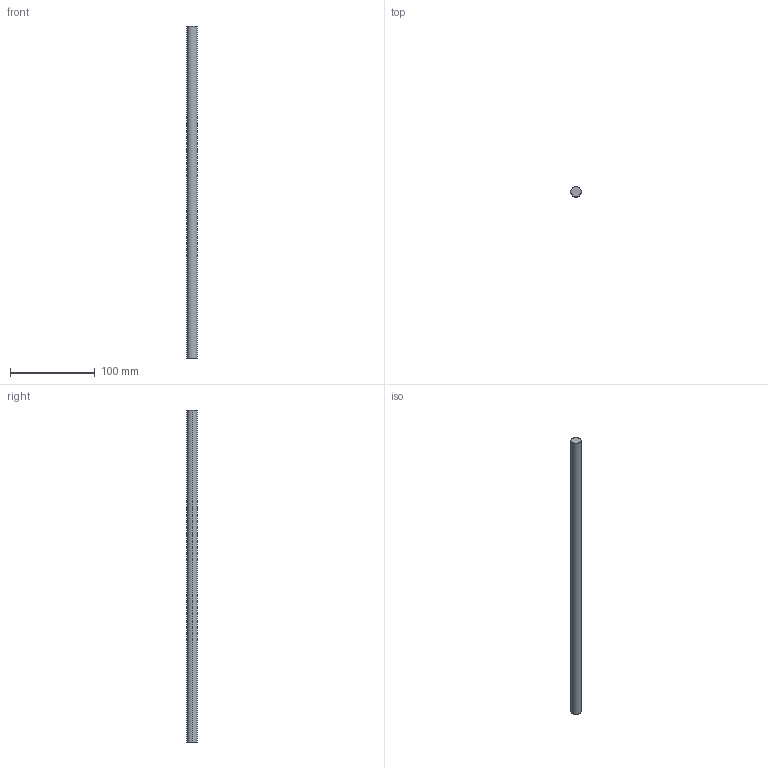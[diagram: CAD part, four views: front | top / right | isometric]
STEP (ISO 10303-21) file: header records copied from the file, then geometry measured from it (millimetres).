
FILE_DESCRIPTION (( 'STEP AP214' ), '1' );
FILE_NAME ('Magic Reling quer - S18_S19 - 500.step', '2010-09-07T14:56:11', ( 'grass' ), ( '' ), 'SwSTEP 2.0', 'SolidWorks 2010', '' );
FILE_SCHEMA (( 'AUTOMOTIVE_DESIGN' ));
Length unit declared in the file: millimetre
Products named in the file (1): Magic Reling quer - S18_S19 - 500
Bounding box: 12 x 12 x 391 mm (x, y, z)
Volume: 44221.1 mm3; surface area: 14966.5 mm2
Topology: 1 solids, 1 shells, 4 faces, 6 edges, 4 vertices
Faces by surface type: cylinder 2, plane 2
Entity records: 128 total; most frequent: DIRECTION 20, CARTESIAN_POINT 15, ORIENTED_EDGE 12, AXIS2_PLACEMENT_3D 9, EDGE_CURVE 6, EDGE_LOOP 4, FACE_OUTER_BOUND 4, CIRCLE 4
